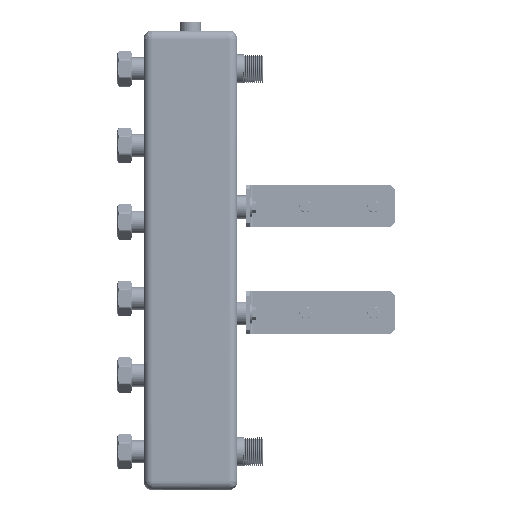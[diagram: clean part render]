
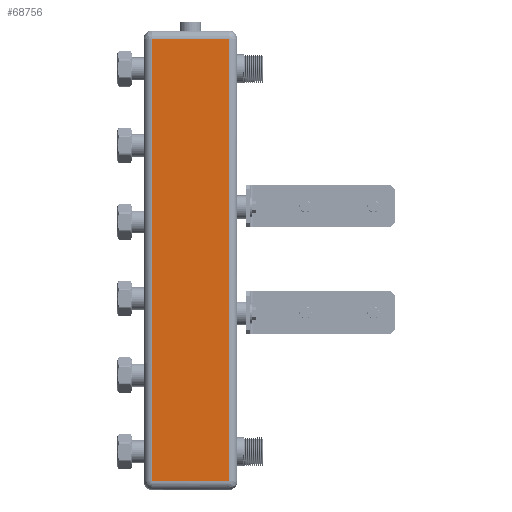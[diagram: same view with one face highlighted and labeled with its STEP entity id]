
A CAD part, left-side view. The second image highlights one B-rep face of the part: STEP entity #68756.
In plain terms, the highlighted planar face has unit normal (-1, 0, 0) as drawn and (1, 0, 0) by its records, which use the part's own axes.
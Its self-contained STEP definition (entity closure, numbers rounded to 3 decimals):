
#1155 = EDGE_CURVE ( 'NONE', #11609, #15429, #54488, .T. ) ;
#2725 = DIRECTION ( 'NONE',  ( 0., 0., -1. ) ) ;
#5558 = CARTESIAN_POINT ( 'NONE',  ( 55., 100., 0. ) ) ;
#8524 = EDGE_CURVE ( 'NONE', #31862, #11127, #18656, .T. ) ;
#11127 = VERTEX_POINT ( 'NONE', #59039 ) ;
#11609 = VERTEX_POINT ( 'NONE', #28974 ) ;
#14021 = CARTESIAN_POINT ( 'NONE',  ( 55., 0., 0. ) ) ;
#14371 = FACE_OUTER_BOUND ( 'NONE', #33346, .T. ) ;
#15429 = VERTEX_POINT ( 'NONE', #44114 ) ;
#16077 = ORIENTED_EDGE ( 'NONE', *, *, #30838, .T. ) ;
#16961 = VECTOR ( 'NONE', #31195, 1000. ) ;
#17962 = CARTESIAN_POINT ( 'NONE',  ( 55., 10., 0. ) ) ;
#18656 = LINE ( 'NONE', #17962, #59319 ) ;
#20036 = DIRECTION ( 'NONE',  ( 1., 0., 0. ) ) ;
#27204 = ORIENTED_EDGE ( 'NONE', *, *, #1155, .T. ) ;
#28704 = AXIS2_PLACEMENT_3D ( 'NONE', #14021, #20036, #35639 ) ;
#28974 = CARTESIAN_POINT ( 'NONE',  ( 55., 100., 10. ) ) ;
#30838 = EDGE_CURVE ( 'NONE', #11127, #11609, #52158, .T. ) ;
#31195 = DIRECTION ( 'NONE',  ( 0., 1., 0. ) ) ;
#31862 = VERTEX_POINT ( 'NONE', #61870 ) ;
#33263 = VECTOR ( 'NONE', #69654, 1000. ) ;
#33346 = EDGE_LOOP ( 'NONE', ( #16077, #27204, #53519, #49632 ) ) ;
#35639 = DIRECTION ( 'NONE',  ( 0., 0., -1. ) ) ;
#38695 = VECTOR ( 'NONE', #48153, 1000. ) ;
#40804 = CARTESIAN_POINT ( 'NONE',  ( 55., 0., 10. ) ) ;
#44114 = CARTESIAN_POINT ( 'NONE',  ( 55., 100., 530. ) ) ;
#47309 = EDGE_CURVE ( 'NONE', #15429, #31862, #62944, .T. ) ;
#48034 = CARTESIAN_POINT ( 'NONE',  ( 55., 0., 530. ) ) ;
#48153 = DIRECTION ( 'NONE',  ( 0., 0., 1. ) ) ;
#49632 = ORIENTED_EDGE ( 'NONE', *, *, #8524, .T. ) ;
#52158 = LINE ( 'NONE', #40804, #16961 ) ;
#52340 = PLANE ( 'NONE',  #28704 ) ;
#53519 = ORIENTED_EDGE ( 'NONE', *, *, #47309, .T. ) ;
#54488 = LINE ( 'NONE', #5558, #38695 ) ;
#59039 = CARTESIAN_POINT ( 'NONE',  ( 55., 10., 10. ) ) ;
#59319 = VECTOR ( 'NONE', #2725, 1000. ) ;
#61870 = CARTESIAN_POINT ( 'NONE',  ( 55., 10., 530. ) ) ;
#62944 = LINE ( 'NONE', #48034, #33263 ) ;
#68756 = ADVANCED_FACE ( 'NONE', ( #14371 ), #52340, .T. ) ;
#69654 = DIRECTION ( 'NONE',  ( 0., -1., 0. ) ) ;
